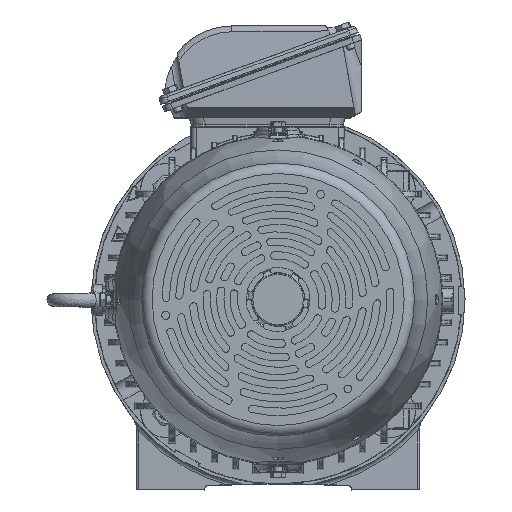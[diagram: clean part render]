
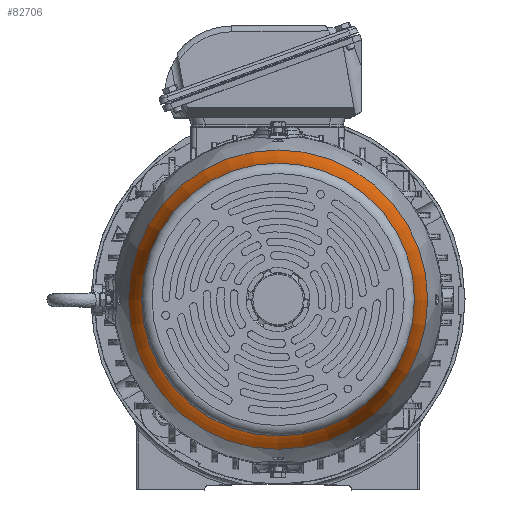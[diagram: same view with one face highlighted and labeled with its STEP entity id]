
A CAD part, top view. The second image highlights one B-rep face of the part: STEP entity #82706.
In plain terms, the highlighted toroidal (fillet/blend) face has major radius 308.616 mm and minor radius 180 mm.
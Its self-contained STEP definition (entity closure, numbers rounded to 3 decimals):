
#1826=TOROIDAL_SURFACE('',#90093,308.617,180.);
#18026=FACE_OUTER_BOUND('',#22896,.T.);
#22896=EDGE_LOOP('',(#69992,#69993,#69994,#69995,#69996,#69997));
#29736=CIRCLE('',#90090,129.927);
#29737=CIRCLE('',#90091,129.927);
#29739=CIRCLE('',#90094,142.487);
#29740=CIRCLE('',#90095,142.487);
#29741=CIRCLE('',#90096,180.);
#37662=VERTEX_POINT('',#188950);
#37663=VERTEX_POINT('',#188951);
#37664=VERTEX_POINT('',#188956);
#37665=VERTEX_POINT('',#188957);
#48798=EDGE_CURVE('',#37662,#37663,#29736,.T.);
#48799=EDGE_CURVE('',#37663,#37662,#29737,.T.);
#48801=EDGE_CURVE('',#37664,#37665,#29739,.T.);
#48802=EDGE_CURVE('',#37665,#37664,#29740,.T.);
#48803=EDGE_CURVE('',#37665,#37663,#29741,.T.);
#69992=ORIENTED_EDGE('',*,*,#48801,.F.);
#69993=ORIENTED_EDGE('',*,*,#48802,.F.);
#69994=ORIENTED_EDGE('',*,*,#48803,.T.);
#69995=ORIENTED_EDGE('',*,*,#48799,.T.);
#69996=ORIENTED_EDGE('',*,*,#48798,.T.);
#69997=ORIENTED_EDGE('',*,*,#48803,.F.);
#82706=ADVANCED_FACE('',(#18026),#1826,.F.);
#90090=AXIS2_PLACEMENT_3D('',#188952,#107786,#107787);
#90091=AXIS2_PLACEMENT_3D('',#188953,#107788,#107789);
#90093=AXIS2_PLACEMENT_3D('',#188955,#107792,#107793);
#90094=AXIS2_PLACEMENT_3D('',#188958,#107794,#107795);
#90095=AXIS2_PLACEMENT_3D('',#188959,#107796,#107797);
#90096=AXIS2_PLACEMENT_3D('',#188960,#107798,#107799);
#107786=DIRECTION('center_axis',(0.,0.,
-1.));
#107787=DIRECTION('ref_axis',(-1.,0.,0.));
#107788=DIRECTION('center_axis',(0.,0.,
-1.));
#107789=DIRECTION('ref_axis',(-1.,0.,0.));
#107792=DIRECTION('center_axis',(0.,0.,
-1.));
#107793=DIRECTION('ref_axis',(-1.,0.,0.));
#107794=DIRECTION('center_axis',(0.,0.,
-1.));
#107795=DIRECTION('ref_axis',(-1.,0.,0.));
#107796=DIRECTION('center_axis',(0.,0.,
-1.));
#107797=DIRECTION('ref_axis',(-1.,0.,0.));
#107798=DIRECTION('center_axis',(0.,1.,0.));
#107799=DIRECTION('ref_axis',(1.,0.,0.));
#188950=CARTESIAN_POINT('',(-129.927,0.,659.405));
#188951=CARTESIAN_POINT('',(129.927,0.,659.405));
#188952=CARTESIAN_POINT('Origin',(0.,0.,
659.405));
#188953=CARTESIAN_POINT('Origin',(0.,0.,
659.405));
#188955=CARTESIAN_POINT('Origin',(0.,0.,
681.087));
#188956=CARTESIAN_POINT('',(-142.487,0.,611.799));
#188957=CARTESIAN_POINT('',(142.487,0.,611.799));
#188958=CARTESIAN_POINT('Origin',(0.,0.,
611.799));
#188959=CARTESIAN_POINT('Origin',(0.,0.,
611.799));
#188960=CARTESIAN_POINT('Origin',(308.617,0.,
681.087));
